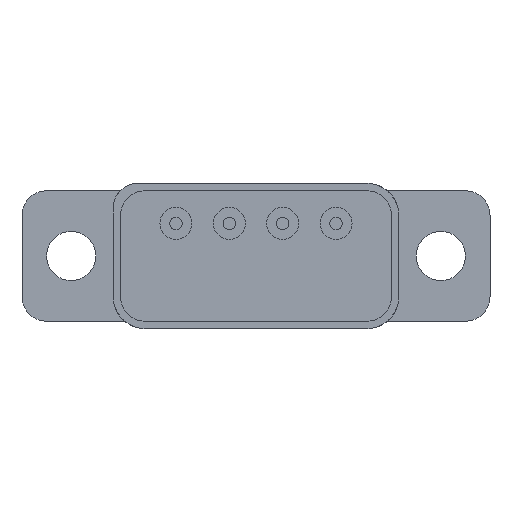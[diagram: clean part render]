
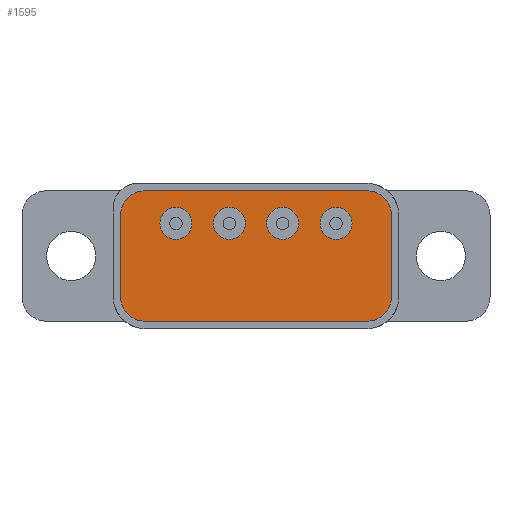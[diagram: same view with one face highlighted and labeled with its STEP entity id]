
A CAD part, front view. The second image highlights one B-rep face of the part: STEP entity #1595.
In plain terms, the highlighted planar face has unit normal (0, -1, 0).
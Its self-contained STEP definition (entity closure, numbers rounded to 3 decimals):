
#21=FACE_BOUND('',#225,.T.);
#22=FACE_BOUND('',#226,.T.);
#23=FACE_BOUND('',#227,.T.);
#24=FACE_BOUND('',#228,.T.);
#57=PLANE('',#1745);
#128=FACE_OUTER_BOUND('',#224,.T.);
#224=EDGE_LOOP('',(#1204,#1205,#1206,#1207,#1208,#1209,#1210,#1211));
#225=EDGE_LOOP('',(#1212));
#226=EDGE_LOOP('',(#1213));
#227=EDGE_LOOP('',(#1214));
#228=EDGE_LOOP('',(#1215));
#312=LINE('',#2448,#450);
#324=LINE('',#2478,#462);
#349=LINE('',#2546,#487);
#353=LINE('',#2557,#491);
#450=VECTOR('',#1986,10.);
#462=VECTOR('',#2010,10.);
#487=VECTOR('',#2073,10.);
#491=VECTOR('',#2087,10.);
#562=CIRCLE('',#1670,0.65);
#564=CIRCLE('',#1674,0.65);
#566=CIRCLE('',#1678,0.65);
#568=CIRCLE('',#1682,0.65);
#585=CIRCLE('',#1712,1.);
#586=CIRCLE('',#1714,1.);
#598=CIRCLE('',#1742,1.);
#599=CIRCLE('',#1744,1.);
#642=VERTEX_POINT('',#2331);
#644=VERTEX_POINT('',#2338);
#646=VERTEX_POINT('',#2345);
#648=VERTEX_POINT('',#2352);
#677=VERTEX_POINT('',#2434);
#678=VERTEX_POINT('',#2436);
#679=VERTEX_POINT('',#2440);
#680=VERTEX_POINT('',#2442);
#681=VERTEX_POINT('',#2446);
#717=VERTEX_POINT('',#2545);
#718=VERTEX_POINT('',#2549);
#719=VERTEX_POINT('',#2553);
#791=EDGE_CURVE('',#642,#642,#562,.T.);
#794=EDGE_CURVE('',#644,#644,#564,.T.);
#797=EDGE_CURVE('',#646,#646,#566,.T.);
#800=EDGE_CURVE('',#648,#648,#568,.T.);
#840=EDGE_CURVE('',#678,#677,#585,.T.);
#843=EDGE_CURVE('',#680,#679,#586,.T.);
#846=EDGE_CURVE('',#679,#681,#312,.T.);
#861=EDGE_CURVE('',#677,#680,#324,.T.);
#894=EDGE_CURVE('',#717,#678,#349,.T.);
#896=EDGE_CURVE('',#718,#717,#598,.T.);
#899=EDGE_CURVE('',#681,#719,#599,.T.);
#900=EDGE_CURVE('',#719,#718,#353,.T.);
#1204=ORIENTED_EDGE('',*,*,#840,.T.);
#1205=ORIENTED_EDGE('',*,*,#861,.T.);
#1206=ORIENTED_EDGE('',*,*,#843,.T.);
#1207=ORIENTED_EDGE('',*,*,#846,.T.);
#1208=ORIENTED_EDGE('',*,*,#899,.T.);
#1209=ORIENTED_EDGE('',*,*,#900,.T.);
#1210=ORIENTED_EDGE('',*,*,#896,.T.);
#1211=ORIENTED_EDGE('',*,*,#894,.T.);
#1212=ORIENTED_EDGE('',*,*,#791,.T.);
#1213=ORIENTED_EDGE('',*,*,#794,.T.);
#1214=ORIENTED_EDGE('',*,*,#797,.T.);
#1215=ORIENTED_EDGE('',*,*,#800,.T.);
#1595=ADVANCED_FACE('',(#128,#21,#22,#23,#24),#57,.F.);
#1670=AXIS2_PLACEMENT_3D('',#2333,#1864,#1865);
#1674=AXIS2_PLACEMENT_3D('',#2340,#1873,#1874);
#1678=AXIS2_PLACEMENT_3D('',#2347,#1882,#1883);
#1682=AXIS2_PLACEMENT_3D('',#2354,#1891,#1892);
#1712=AXIS2_PLACEMENT_3D('',#2437,#1974,#1975);
#1714=AXIS2_PLACEMENT_3D('',#2443,#1980,#1981);
#1742=AXIS2_PLACEMENT_3D('',#2550,#2077,#2078);
#1744=AXIS2_PLACEMENT_3D('',#2555,#2083,#2084);
#1745=AXIS2_PLACEMENT_3D('',#2556,#2085,#2086);
#1864=DIRECTION('center_axis',(0.,1.,0.));
#1865=DIRECTION('ref_axis',(1.,0.,0.));
#1873=DIRECTION('center_axis',(0.,1.,0.));
#1874=DIRECTION('ref_axis',(1.,0.,0.));
#1882=DIRECTION('center_axis',(0.,1.,0.));
#1883=DIRECTION('ref_axis',(1.,0.,0.));
#1891=DIRECTION('center_axis',(0.,1.,0.));
#1892=DIRECTION('ref_axis',(1.,0.,0.));
#1974=DIRECTION('center_axis',(0.,-1.,0.));
#1975=DIRECTION('ref_axis',(0.,0.,1.));
#1980=DIRECTION('center_axis',(0.,-1.,0.));
#1981=DIRECTION('ref_axis',(-1.,0.,0.));
#1986=DIRECTION('',(0.,0.,-1.));
#2010=DIRECTION('',(-1.,0.,0.));
#2073=DIRECTION('',(0.,0.,1.));
#2077=DIRECTION('center_axis',(0.,-1.,0.));
#2078=DIRECTION('ref_axis',(1.,0.,0.));
#2083=DIRECTION('center_axis',(0.,-1.,0.));
#2084=DIRECTION('ref_axis',(0.,0.,-1.));
#2085=DIRECTION('center_axis',(0.,1.,0.));
#2086=DIRECTION('ref_axis',(1.,0.,0.));
#2087=DIRECTION('',(1.,0.,0.));
#2331=CARTESIAN_POINT('',(2.6,-5.95,4.275));
#2333=CARTESIAN_POINT('Origin',(3.25,-5.95,4.275));
#2338=CARTESIAN_POINT('',(-3.9,-5.95,4.275));
#2340=CARTESIAN_POINT('Origin',(-3.25,-5.95,4.275));
#2345=CARTESIAN_POINT('',(0.433,-5.95,4.275));
#2347=CARTESIAN_POINT('Origin',(1.083,-5.95,4.275));
#2352=CARTESIAN_POINT('',(-1.733,-5.95,4.275));
#2354=CARTESIAN_POINT('Origin',(-1.083,-5.95,4.275));
#2434=CARTESIAN_POINT('',(4.5,-5.95,5.6));
#2436=CARTESIAN_POINT('',(5.5,-5.95,4.6));
#2437=CARTESIAN_POINT('Origin',(4.5,-5.95,4.6));
#2440=CARTESIAN_POINT('',(-5.5,-5.95,4.6));
#2442=CARTESIAN_POINT('',(-4.5,-5.95,5.6));
#2443=CARTESIAN_POINT('Origin',(-4.5,-5.95,4.6));
#2446=CARTESIAN_POINT('',(-5.5,-5.95,1.3));
#2448=CARTESIAN_POINT('',(-5.5,-5.95,1.3));
#2478=CARTESIAN_POINT('',(4.5,-5.95,5.6));
#2545=CARTESIAN_POINT('',(5.5,-5.95,1.3));
#2546=CARTESIAN_POINT('',(5.5,-5.95,4.6));
#2549=CARTESIAN_POINT('',(4.5,-5.95,0.3));
#2550=CARTESIAN_POINT('Origin',(4.5,-5.95,1.3));
#2553=CARTESIAN_POINT('',(-4.5,-5.95,0.3));
#2555=CARTESIAN_POINT('Origin',(-4.5,-5.95,1.3));
#2556=CARTESIAN_POINT('Origin',(0.,-5.95,2.95));
#2557=CARTESIAN_POINT('',(-5.5,-5.95,0.3));
